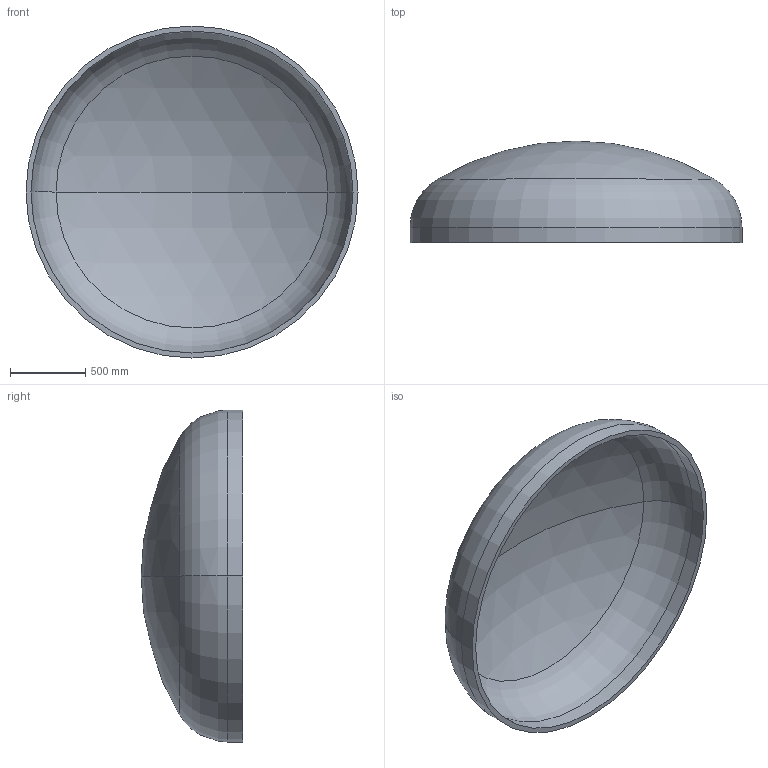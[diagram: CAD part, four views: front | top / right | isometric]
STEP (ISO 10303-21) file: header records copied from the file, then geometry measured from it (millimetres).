
FILE_DESCRIPTION (( 'STEP AP203' ), '1' );
FILE_NAME ('DIN 28013 Korbbogenform_-_Boden DIN 28013 - 2200 x 100 - I - s=33.step', '2016-07-01T14:31:25', ( '' ), ( '' ), 'SwSTEP 2.0', 'SolidWorks 2013', '' );
FILE_SCHEMA (( 'CONFIG_CONTROL_DESIGN' ));
Length unit declared in the file: millimetre
Products named in the file (1): DIN 28013 Korbbogenform_-_Boden DIN 28013 - 2200 x 100 - I - s=33
Bounding box: 2200 x 673.22 x 2200 mm (x, y, z)
Volume: 192915072.2 mm3; surface area: 11918757.8 mm2
Topology: 1 solids, 1 shells, 13 faces, 24 edges, 14 vertices
Faces by surface type: torus 4, cylinder 4, sphere 4, plane 1
Entity records: 407 total; most frequent: DIRECTION 72, CARTESIAN_POINT 52, ORIENTED_EDGE 48, AXIS2_PLACEMENT_3D 34, EDGE_CURVE 24, CIRCLE 20, EDGE_LOOP 14, VERTEX_POINT 14
